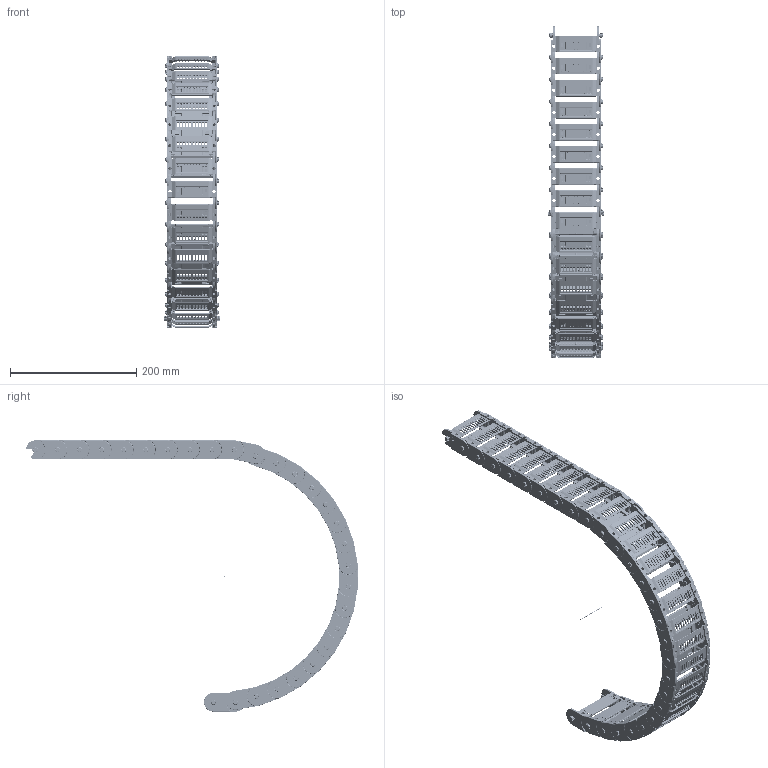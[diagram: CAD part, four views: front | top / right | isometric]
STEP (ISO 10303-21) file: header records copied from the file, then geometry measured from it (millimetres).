
FILE_DESCRIPTION((''),'2;1');
FILE_NAME('C:\Uebbing\PARAMETERKETTEN\KOLIBRI\Kol_30_080_0\KOLIBRI 30_080_0_R200_ELTOLA.stp','2012-03-05T10:24:17',('Uebbing'),(''),'Autodesk Inventor 10','Autodesk Inventor 10','');
FILE_SCHEMA(('AUTOMOTIVE_DESIGN { 1 0 10303 214 1 1 1 1 }'));
Length unit declared in the file: millimetre
Products named in the file (6): KOLIBRI 30_080_0_ELTOLA_PARAMETRISCH; Achse; Kol_30_080_0 ELTOLA_Glied; Kol 30_080_0 Lasche ELTOLA; Kol 30_080_0 Klappsteg; ELTOLA30
Assembly tree (34 placements, depth 3):
  KOLIBRI 30_080_0_ELTOLA_PARAMETRISCH
    Achse
    Kol_30_080_0 ELTOLA_Glied  x27
      Kol 30_080_0 Lasche ELTOLA
      Kol 30_080_0 Klappsteg
      ELTOLA30
    ELTOLA30  x2
Bounding box: 90 x 525.71 x 430 mm (x, y, z)
Volume: 503172.8 mm3; surface area: 479494.1 mm2
Topology: 111 solids, 111 shells, 32303 faces, 88622 edges, 57054 vertices
Faces by surface type: plane 12968, bspline 10943, cylinder 6467, torus 1358, sphere 297, cone 270
Full cylindrical faces by diameter (mm): 1 x1, 1.166 x27, 2.048 x27, 2.8 x162, 5.1 x27
Entity records: 43625 total; most frequent: CARTESIAN_POINT 16211, ORIENTED_EDGE 6136, DIRECTION 4943, EDGE_CURVE 3068, VERTEX_POINT 1989, VECTOR 1797, LINE 1797, AXIS2_PLACEMENT_3D 1573
